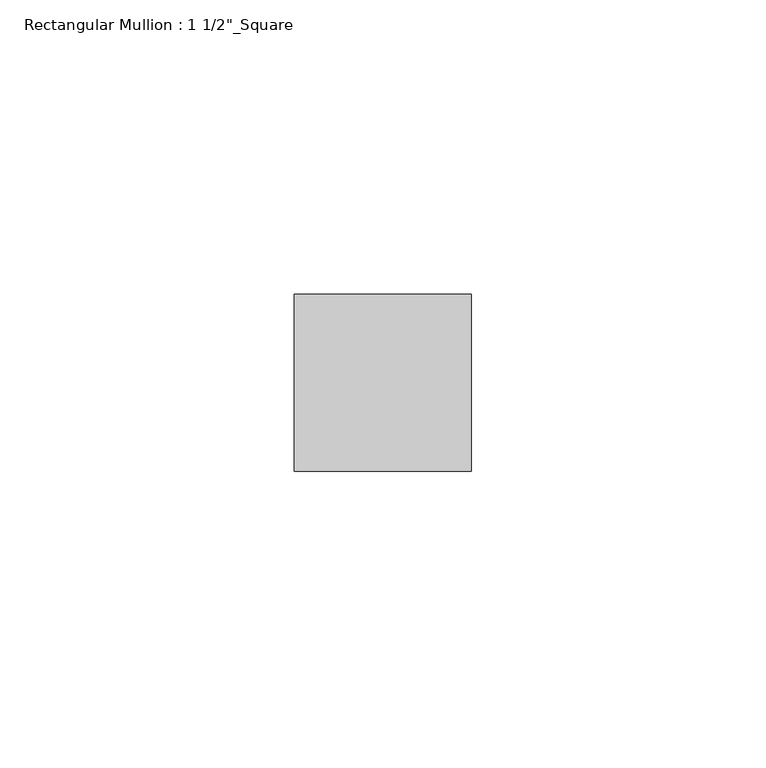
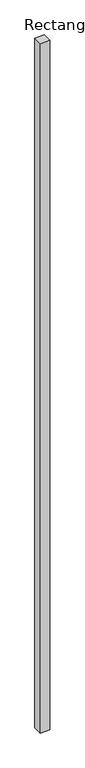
"""IFC4 building model written with IfcOpenShell, lengths in millimetres: member geometry."""

from ifc_helpers import new_model, si_unit, frame, origin, place, context, project, spatial, polyline, outline, extrude, source, transform, mapped, element, save


def member_0a70452f(model_context):
    return source(origin(), model_context, "Body", "SweptSolid", [
        extrude(outline(polyline([(0.0, 27.5), (0.0, -2.5), (-30.0, -2.5), (-30.0, 27.5), (0.0, 27.5)])), frame((0.0, 0.0, -2300.0), z_axis=(0.0, 0.0, 1.0), x_axis=(1.0, 0.0, 0.0)), (0.0, 0.0, 1.0), 2300.0),
    ])


if __name__ == "__main__":
    model = new_model("IFC4")
    model_context = context("Model", 3, world=origin())
    ifc_project = project(units=[si_unit("LENGTHUNIT", "METRE", prefix="MILLI")], contexts=[model_context])
    site = spatial("IfcSite", under=ifc_project)
    building = spatial("IfcBuilding", under=site)
    placement = place(None, origin())
    member_shape = member_0a70452f(model_context)
    element("IfcMember", 1, ObjectType="Rectangular Mullion : 1 1/2\"_Square", at=placement, inside=building, context=model_context, shape_type="MappedRepresentation", body=[
        mapped(member_shape, transform((0.0, 0.0, 0.0), x_axis=(1.0, 0.0, 0.0), y_axis=(0.0, 1.0, 0.0), z_axis=(0.0, 0.0, 1.0))),
    ])
    save(model, "model.ifc")
